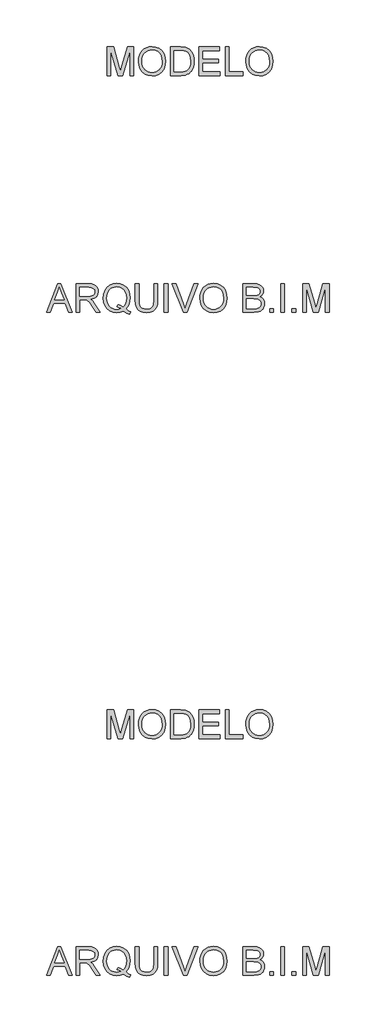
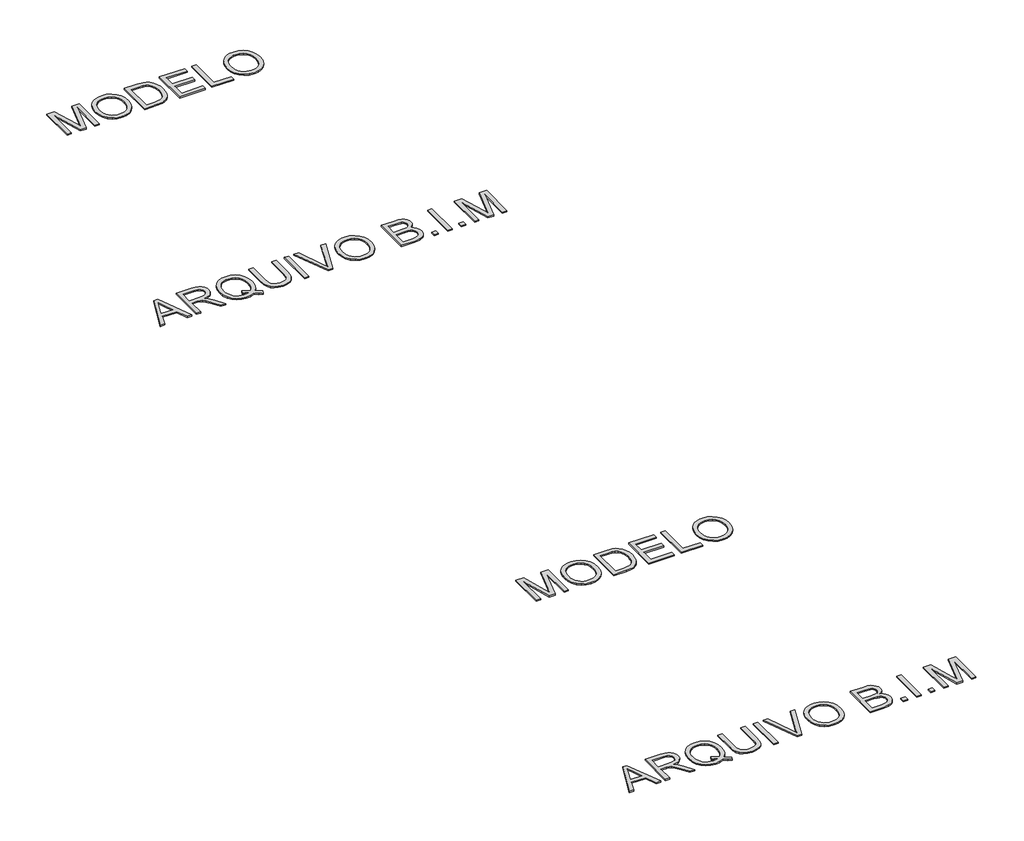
# One storey, part 12 of 19: 4 proxies.
"""IFC4 building model written with IfcOpenShell, lengths in millimetres."""

from ifc_helpers import new_model, si_unit, origin, origin_with_axes, place, context, project, spatial, polyline, outline, extrude, element, save

model = new_model("IFC4")

# Units and contexts
model_context = context("Model", 3, world=origin())
ifc_project = project(units=[si_unit("LENGTHUNIT", "METRE", prefix="MILLI")], contexts=[model_context])

# Site, building, storey
site = spatial("IfcSite", under=ifc_project)
building = spatial("IfcBuilding", under=site)
storey = spatial("IfcBuildingStorey", under=building, Name="Marelli - Linha ACTIVE - Planta Baixa", Elevation=0.0)

# Proxies
placement = place(None, origin())
element("IfcBuildingElementProxy", 1, Name="300mm Arial", ObjectType="300mm Arial", at=placement, inside=storey, context=model_context, shape_type="SweptSolid", body=[
    extrude(outline(polyline([(-5609.419598, -35280.5663201), (-5489.1221856, -34979.1973896), (-5457.0428756, -34979.1973896), (-5336.7454632, -35280.5663201), (-5376.550295, -35280.5663201), (-5411.0576262, -35186.3885293), (-5535.1810114, -35186.3885293), (-5569.6147661, -35280.5663201), (-5609.419598, -35280.5663201)]), holes=[polyline([(-5521.3486483, -35148.717413), (-5424.8164128, -35148.717413), (-5451.9661041, -35074.6259792), (-5473.0825306, -35016.8685059), (-5491.8445123, -35068.1512561), (-5521.3486483, -35148.717413)])]), origin_with_axes(), (0.0, 0.0, 1.0), 10.0),
    extrude(outline(polyline([(-5296.4991729, -35280.5663201), (-5296.4991729, -34979.1973896), (-5166.6368286, -34979.1973896), (-5131.7340243, -34981.2299376), (-5106.3409696, -34987.3275817), (-5087.7813229, -34998.5847708), (-5073.3787428, -35016.0959537), (-5064.1357077, -35037.8101885), (-5061.054696, -35061.6765329), (-5066.1590587, -35091.3646099), (-5081.4721467, -35115.9759154), (-5093.0719259, -35126.0052983), (-5107.4538126, -35134.0205273), (-5144.5639089, -35144.0085235), (-5123.1531768, -35160.1217548), (-5092.6189712, -35198.8965171), (-5042.3662906, -35280.5663201), (-5086.144248, -35280.5663201), (-5125.3604687, -35218.0999573), (-5153.6873824, -35176.750021), (-5173.5897983, -35157.2154871), (-5191.5056515, -35150.0417882), (-5213.357842, -35148.717413), (-5258.8280566, -35148.717413), (-5258.8280566, -35280.5663201), (-5296.4991729, -35280.5663201)]), holes=[polyline([(-5258.8280566, -35111.0462967), (-5174.5095033, -35111.0462967), (-5150.293671, -35109.7127245), (-5131.5040981, -35105.7120078), (-5117.3590353, -35098.7774322), (-5107.0767336, -35088.6422832), (-5100.8135426, -35076.3826157), (-5098.7258123, -35063.0744845), (-5102.7081349, -35044.6987789), (-5114.6551027, -35029.8915286), (-5135.2105092, -35020.1242616), (-5165.0181478, -35016.8685059), (-5258.8280566, -35016.8685059), (-5258.8280566, -35111.0462967)])]), origin_with_axes(), (0.0, 0.0, 1.0), 10.0),
    extrude(outline(polyline([(-4768.7356626, -35244.4403081), (-4744.4002686, -35263.036743), (-4722.0146492, -35275.8574305), (-4732.1681923, -35303.4485802), (-4763.2358268, -35289.0460001), (-4794.1930967, -35268.205485), (-4829.0499157, -35281.0077785), (-4867.4016137, -35285.2752096), (-4905.9372527, -35280.3547879), (-4940.7572836, -35265.5935229), (-4969.9211287, -35241.9203165), (-4991.4882107, -35210.2640708), (-5004.814736, -35172.3630282), (-5009.2569111, -35129.9554312), (-5004.823933, -35087.511046), (-4991.5249989, -35049.0581805), (-4970.0406904, -35016.9512794), (-4941.0515892, -34993.5447874), (-4906.360317, -34979.2525719), (-4867.7694957, -34974.4885001), (-4828.8751718, -34979.3629365), (-4794.0091557, -34993.9862458), (-4765.0660397, -35017.3835407), (-4743.9404161, -35048.5799339), (-4731.0277581, -35085.9199564), (-4726.7235388, -35127.7481393), (-4729.3355009, -35162.5313819), (-4737.1713874, -35193.5990164), (-4750.2863806, -35220.9142546), (-4768.7356626, -35244.4403081)]), holes=[polyline([(-4857.0273415, -35194.3347804), (-4825.3527017, -35206.3093393), (-4799.784903, -35222.9559996), (-4784.3016695, -35205.4816049), (-4773.2422171, -35184.1076609), (-4766.6065456, -35158.8341679), (-4764.3946551, -35129.6611256), (-4767.521652, -35096.5057608), (-4776.9026429, -35067.8201623), (-4792.3077015, -35044.3308969), (-4813.5069014, -35026.7645316), (-4839.065503, -35015.8108452), (-4867.5487665, -35012.1596164), (-4889.033075, -35014.0059242), (-4908.6043972, -35019.5448474), (-4926.2627329, -35028.7763863), (-4942.0080823, -35041.7005406), (-4954.9483315, -35058.2897193), (-4964.1913666, -35078.5163313), (-4969.7371877, -35102.3803764), (-4971.5857948, -35129.8818548), (-4969.7578811, -35156.6659634), (-4964.2741401, -35180.1437324), (-4955.1345718, -35200.3151621), (-4942.3391761, -35217.1802523), (-4926.7018921, -35230.4906827), (-4909.0366585, -35239.9981331), (-4889.3434755, -35245.7026032), (-4867.6223429, -35247.6040933), (-4846.7082515, -35245.6727128), (-4827.081747, -35239.8785714), (-4846.3771577, -35229.853787), (-4866.7394261, -35223.1767288), (-4857.0273415, -35194.3347804)])]), origin_with_axes(), (0.0, 0.0, 1.0), 10.0),
    extrude(outline(polyline([(-4472.4435037, -34979.1973896), (-4434.7723874, -34979.1973896), (-4434.7723874, -35153.0584205), (-4437.3291673, -35193.7737604), (-4444.9995069, -35225.1265034), (-4459.3285106, -35249.3147446), (-4481.8612828, -35268.5365788), (-4512.6530058, -35281.0905519), (-4551.7588619, -35285.2752096), (-4590.0093923, -35281.6331779), (-4620.5895832, -35270.7070826), (-4643.5086315, -35252.8740029), (-4658.7757343, -35228.5110178), (-4667.3565818, -35195.8338995), (-4670.2168643, -35153.0584205), (-4670.2168643, -34979.1973896), (-4632.545748, -34979.1973896), (-4632.545748, -35151.7340454), (-4630.6879439, -35185.588386), (-4625.1145317, -35209.1604248), (-4615.0161709, -35225.4851883), (-4599.5835212, -35237.597703), (-4579.4603761, -35245.1024957), (-4555.290529, -35247.6040933), (-4516.9756192, -35242.6560805), (-4502.6328199, -35236.4710644), (-4491.499791, -35227.812042), (-4483.1626653, -35215.6351479), (-4477.2075755, -35198.8965171), (-4472.4435037, -35151.7340454), (-4472.4435037, -34979.1973896)])), origin_with_axes(), (0.0, 0.0, 1.0), 10.0),
    extrude(outline(polyline([(-4364.1390443, -35280.5663201), (-4364.1390443, -34979.1973896), (-4326.467928, -34979.1973896), (-4326.467928, -35280.5663201), (-4364.1390443, -35280.5663201)])), origin_with_axes(), (0.0, 0.0, 1.0), 10.0),
    extrude(outline(polyline([(-4162.0982526, -35280.5663201), (-4282.027783, -34979.1973896), (-4241.7079163, -34979.1973896), (-4161.436065, -35196.3213432), (-4145.1756808, -35245.2496485), (-4129.1360258, -35196.3213432), (-4048.6434453, -34979.1973896), (-4008.3235786, -34979.1973896), (-4123.1763375, -35280.5663201), (-4162.0982526, -35280.5663201)])), origin_with_axes(), (0.0, 0.0, 1.0), 10.0),
    extrude(outline(polyline([(-3987.4278813, -35133.8549804), (-3984.9170866, -35098.5061192), (-3977.3847028, -35067.213157), (-3964.8307297, -35039.9760937), (-3947.2551674, -35016.7949295), (-3925.711078, -34998.2858666), (-3901.2515239, -34985.0651074), (-3873.8765049, -34977.1326519), (-3843.5860211, -34974.4885001), (-3804.0571008, -34979.454907), (-3768.6116705, -34994.3541278), (-3739.1811109, -35018.1376988), (-3717.6968024, -35049.7571563), (-3704.5634152, -35087.68579), (-3700.1856194, -35130.3968896), (-3704.7933414, -35173.6782064), (-3718.6165074, -35212.140269), (-3740.8917622, -35243.8149087), (-3770.8557507, -35266.733957), (-3805.9976783, -35280.6398965), (-3843.8067503, -35285.2752096), (-3883.942676, -35280.1524528), (-3919.5904413, -35264.7841825), (-3948.9474246, -35240.5591531), (-3970.2110039, -35208.8661192), (-3983.1236619, -35172.3998164), (-3987.4278813, -35133.8549804)]), holes=[polyline([(-3949.7567649, -35134.2228624), (-3947.873669, -35159.1974513), (-3942.2243811, -35181.3669401), (-3932.8089013, -35200.7313286), (-3919.6272295, -35217.2906169), (-3903.6036694, -35230.5527628), (-3885.6625243, -35240.0257242), (-3865.8037944, -35245.709501), (-3844.0274795, -35247.6040933), (-3821.8786842, -35245.6911069), (-3801.7854294, -35239.9521478), (-3783.7477154, -35230.3872159), (-3767.7655419, -35216.9963113), (-3754.6804392, -35200.0875351), (-3745.3339373, -35179.9689885), (-3739.7260361, -35156.6406715), (-3737.8567357, -35130.102584), (-3741.0573091, -35096.7540812), (-3750.6590292, -35067.9305269), (-3766.4135756, -35044.358488), (-3788.0726281, -35026.7645316), (-3814.2014468, -35015.8108452), (-3843.3652919, -35012.1596164), (-3864.3851494, -35013.9185522), (-3883.8874937, -35019.1953595), (-3901.8723248, -35027.9900385), (-3918.3396426, -35040.302589), (-3932.0846336, -35056.7262208), (-3941.9024844, -35077.8541437), (-3947.7931948, -35103.6863575), (-3949.7567649, -35134.2228624)])]), origin_with_axes(), (0.0, 0.0, 1.0), 10.0),
    extrude(outline(polyline([(-3530.665596, -35280.5663201), (-3530.665596, -34979.1973896), (-3415.6656844, -34979.1973896), (-3384.0370298, -34981.4138786), (-3359.3429509, -34988.0633457), (-3340.4154222, -34999.3113377), (-3326.0864185, -35015.3234015), (-3317.0641126, -35034.1589597), (-3314.0566773, -35053.8774346), (-3316.585866, -35072.0232141), (-3324.1734321, -35089.0837416), (-3336.874558, -35104.0105535), (-3354.7444259, -35115.7551862), (-3333.3980732, -35126.9020107), (-3317.6251326, -35143.8613707), (-3307.8854568, -35165.5112261), (-3304.6388982, -35190.7295368), (-3306.8553872, -35211.7447958), (-3313.5048543, -35231.2333445), (-3323.4284711, -35247.8064284), (-3335.4674094, -35260.0752929), (-3350.2102804, -35268.9596431), (-3368.2456952, -35275.3791839), (-3416.5486011, -35280.5663201), (-3530.665596, -35280.5663201)]), holes=[polyline([(-3492.9944797, -35101.6285176), (-3424.2005466, -35101.6285176), (-3384.0278328, -35098.3911561), (-3369.9655435, -35092.8085468), (-3359.8579857, -35084.4484284), (-3353.7603416, -35073.4395597), (-3351.7277936, -35059.9106994), (-3353.6223859, -35046.7773121), (-3359.3061627, -35035.3361821), (-3368.5216067, -35026.4058467), (-3381.0112004, -35020.8048433), (-3429.424471, -35016.8685059), (-3492.9944797, -35016.8685059), (-3492.9944797, -35101.6285176)]), polyline([(-3492.9944797, -35242.8952038), (-3415.7392607, -35242.8952038), (-3387.7802291, -35241.4236758), (-3364.1254168, -35233.2199073), (-3348.4536438, -35216.4812765), (-3343.8459218, -35204.6538704), (-3342.3100145, -35191.0974188), (-3344.1126363, -35175.3520694), (-3349.5205016, -35161.814012), (-3358.9658718, -35151.2282076), (-3372.8810083, -35144.3396173), (-3392.5902862, -35140.5596298), (-3419.4180807, -35139.2996339), (-3492.9944797, -35139.2996339), (-3492.9944797, -35242.8952038)])]), origin_with_axes(), (0.0, 0.0, 1.0), 10.0),
    extrude(outline(polyline([(-3248.1322237, -35280.5663201), (-3248.1322237, -35242.8952038), (-3210.4611074, -35242.8952038), (-3210.4611074, -35280.5663201), (-3248.1322237, -35280.5663201)])), origin_with_axes(), (0.0, 0.0, 1.0), 10.0),
    extrude(outline(polyline([(-3130.4099853, -35280.5663201), (-3130.4099853, -34979.1973896), (-3092.738869, -34979.1973896), (-3092.738869, -35280.5663201), (-3130.4099853, -35280.5663201)])), origin_with_axes(), (0.0, 0.0, 1.0), 10.0),
    extrude(outline(polyline([(-3012.6877468, -35280.5663201), (-3012.6877468, -35242.8952038), (-2975.0166305, -35242.8952038), (-2975.0166305, -35280.5663201), (-3012.6877468, -35280.5663201)])), origin_with_axes(), (0.0, 0.0, 1.0), 10.0),
    extrude(outline(polyline([(-2899.6743979, -35280.5663201), (-2899.6743979, -34979.1973896), (-2834.8535904, -34979.1973896), (-2773.196568, -35191.6124536), (-2760.7621565, -35235.9790223), (-2747.2976755, -35187.9336337), (-2686.6707227, -34979.1973896), (-2621.8499152, -34979.1973896), (-2621.8499152, -35280.5663201), (-2659.5210315, -35280.5663201), (-2659.5210315, -35016.8685059), (-2735.2311461, -35280.5663201), (-2786.293167, -35280.5663201), (-2862.0032816, -35016.8685059), (-2862.0032816, -35280.5663201), (-2899.6743979, -35280.5663201)])), origin_with_axes(), (0.0, 0.0, 1.0), 10.0),
])
element("IfcBuildingElementProxy", 2, Name="300mm Arial", ObjectType="300mm Arial", at=placement, inside=storey, context=model_context, shape_type="SweptSolid", body=[
    extrude(outline(polyline([(-4966.8769052, -32780.5663201), (-4966.8769052, -32479.1973896), (-4902.0560977, -32479.1973896), (-4840.3990753, -32691.6124536), (-4827.9646638, -32735.9790223), (-4814.5001828, -32687.9336337), (-4753.87323, -32479.1973896), (-4689.0524225, -32479.1973896), (-4689.0524225, -32780.5663201), (-4726.7235388, -32780.5663201), (-4726.7235388, -32516.8685059), (-4802.4336534, -32780.5663201), (-4853.4956743, -32780.5663201), (-4929.2057889, -32516.8685059), (-4929.2057889, -32780.5663201), (-4966.8769052, -32780.5663201)])), origin_with_axes(), (0.0, 0.0, 1.0), 10.0),
    extrude(outline(polyline([(-4637.2546375, -32633.8549804), (-4634.7438429, -32598.5061192), (-4627.2114591, -32567.213157), (-4614.657486, -32539.9760937), (-4597.0819237, -32516.7949295), (-4575.5378343, -32498.2858666), (-4551.0782802, -32485.0651074), (-4523.7032612, -32477.1326519), (-4493.4127774, -32474.4885001), (-4453.883857, -32479.454907), (-4418.4384268, -32494.3541278), (-4389.0078672, -32518.1376988), (-4367.5235587, -32549.7571563), (-4354.3901714, -32587.68579), (-4350.0123757, -32630.3968896), (-4354.6200977, -32673.6782064), (-4368.4432637, -32712.140269), (-4390.7185185, -32743.8149087), (-4420.682507, -32766.733957), (-4455.8244346, -32780.6398965), (-4493.6335066, -32785.2752096), (-4533.7694323, -32780.1524528), (-4569.4171976, -32764.7841825), (-4598.7741808, -32740.5591531), (-4620.0377602, -32708.8661192), (-4632.9504182, -32672.3998164), (-4637.2546375, -32633.8549804)]), holes=[polyline([(-4599.5835212, -32634.2228624), (-4597.7004253, -32659.1974513), (-4592.0511374, -32681.3669401), (-4582.6356576, -32700.7313286), (-4569.4539858, -32717.2906169), (-4553.4304257, -32730.5527628), (-4535.4892806, -32740.0257242), (-4515.6305507, -32745.709501), (-4493.8542358, -32747.6040933), (-4471.7054404, -32745.6911069), (-4451.6121857, -32739.9521478), (-4433.5744716, -32730.3872159), (-4417.5922982, -32716.9963113), (-4404.5071955, -32700.0875351), (-4395.1606936, -32679.9689885), (-4389.5527924, -32656.6406715), (-4387.683492, -32630.102584), (-4390.8840654, -32596.7540812), (-4400.4857854, -32567.9305269), (-4416.2403319, -32544.358488), (-4437.8993843, -32526.7645316), (-4464.0282031, -32515.8108452), (-4493.1920482, -32512.1596164), (-4514.2119057, -32513.9185522), (-4533.71425, -32519.1953595), (-4551.699081, -32527.9900385), (-4568.1663988, -32540.302589), (-4581.9113899, -32556.7262208), (-4591.7292406, -32577.8541437), (-4597.6199511, -32603.6863575), (-4599.5835212, -32634.2228624)])]), origin_with_axes(), (0.0, 0.0, 1.0), 10.0),
    extrude(outline(polyline([(-4298.2145908, -32780.5663201), (-4298.2145908, -32479.1973896), (-4194.2511389, -32479.1973896), (-4140.4667912, -32483.5383972), (-4116.444097, -32491.9077126), (-4096.173799, -32505.0962821), (-4075.333284, -32528.0521186), (-4060.4892455, -32556.5997614), (-4051.6048953, -32590.1873876), (-4048.6434453, -32628.2631741), (-4050.6484021, -32660.6091985), (-4056.6632727, -32689.0740679), (-4065.8235344, -32713.3082943), (-4077.2646645, -32732.9623899), (-4090.4348399, -32748.477813), (-4104.7822377, -32760.2960221), (-4121.254154, -32769.0608107), (-4140.797885, -32775.4159721), (-4189.2479438, -32780.5663201), (-4298.2145908, -32780.5663201)]), holes=[polyline([(-4260.5434745, -32742.8952038), (-4193.8832569, -32742.8952038), (-4166.3105014, -32741.5340404), (-4145.39641, -32737.4505502), (-4129.6142724, -32730.8838566), (-4117.4373783, -32722.0730828), (-4104.3499764, -32705.7667134), (-4094.5183301, -32684.6594839), (-4088.3655037, -32658.6594239), (-4086.3145616, -32627.6745629), (-4090.3336724, -32586.6189322), (-4102.3910047, -32556.3054558), (-4120.2056904, -32535.4833349), (-4141.4968608, -32522.9017706), (-4163.1651104, -32518.3768221), (-4194.9133265, -32516.8685059), (-4260.5434745, -32516.8685059), (-4260.5434745, -32742.8952038)])]), origin_with_axes(), (0.0, 0.0, 1.0), 10.0),
    extrude(outline(polyline([(-3996.8456603, -32780.5663201), (-3996.8456603, -32479.1973896), (-3780.2367416, -32479.1973896), (-3780.2367416, -32516.8685059), (-3959.174544, -32516.8685059), (-3959.174544, -32606.3374072), (-3789.6545206, -32606.3374072), (-3789.6545206, -32644.0085235), (-3959.174544, -32644.0085235), (-3959.174544, -32742.8952038), (-3775.527852, -32742.8952038), (-3775.527852, -32780.5663201), (-3996.8456603, -32780.5663201)])), origin_with_axes(), (0.0, 0.0, 1.0), 10.0),
    extrude(outline(polyline([(-3719.0211776, -32780.5663201), (-3719.0211776, -32479.1973896), (-3681.3500613, -32479.1973896), (-3681.3500613, -32742.8952038), (-3530.665596, -32742.8952038), (-3530.665596, -32780.5663201), (-3719.0211776, -32780.5663201)])), origin_with_axes(), (0.0, 0.0, 1.0), 10.0),
    extrude(outline(polyline([(-3502.4122588, -32633.8549804), (-3499.9014642, -32598.5061192), (-3492.3690803, -32567.213157), (-3479.8151073, -32539.9760937), (-3462.2395449, -32516.7949295), (-3440.6954556, -32498.2858666), (-3416.2359014, -32485.0651074), (-3388.8608825, -32477.1326519), (-3358.5703987, -32474.4885001), (-3319.0414783, -32479.454907), (-3283.5960481, -32494.3541278), (-3254.1654885, -32518.1376988), (-3232.6811799, -32549.7571563), (-3219.5477927, -32587.68579), (-3215.169997, -32630.3968896), (-3219.777719, -32673.6782064), (-3233.6008849, -32712.140269), (-3255.8761397, -32743.8149087), (-3285.8401283, -32766.733957), (-3320.9820558, -32780.6398965), (-3358.7911279, -32785.2752096), (-3398.9270536, -32780.1524528), (-3434.5748189, -32764.7841825), (-3463.9318021, -32740.5591531), (-3485.1953814, -32708.8661192), (-3498.1080395, -32672.3998164), (-3502.4122588, -32633.8549804)]), holes=[polyline([(-3464.7411425, -32634.2228624), (-3462.8580465, -32659.1974513), (-3457.2087587, -32681.3669401), (-3447.7932788, -32700.7313286), (-3434.6116071, -32717.2906169), (-3418.5880469, -32730.5527628), (-3400.6469019, -32740.0257242), (-3380.7881719, -32745.709501), (-3359.0118571, -32747.6040933), (-3336.8630617, -32745.6911069), (-3316.769807, -32739.9521478), (-3298.7320929, -32730.3872159), (-3282.7499195, -32716.9963113), (-3269.6648168, -32700.0875351), (-3260.3183148, -32679.9689885), (-3254.7104137, -32656.6406715), (-3252.8411133, -32630.102584), (-3256.0416866, -32596.7540812), (-3265.6434067, -32567.9305269), (-3281.3979532, -32544.358488), (-3303.0570056, -32526.7645316), (-3329.1858243, -32515.8108452), (-3358.3496695, -32512.1596164), (-3379.369527, -32513.9185522), (-3398.8718713, -32519.1953595), (-3416.8567023, -32527.9900385), (-3433.3240201, -32540.302589), (-3447.0690112, -32556.7262208), (-3456.8868619, -32577.8541437), (-3462.7775724, -32603.6863575), (-3464.7411425, -32634.2228624)])]), origin_with_axes(), (0.0, 0.0, 1.0), 10.0),
])
element("IfcBuildingElementProxy", 3, Name="300mm Arial", ObjectType="300mm Arial", at=placement, inside=storey, context=model_context, shape_type="SweptSolid", body=[
    extrude(outline(polyline([(-5609.419598, -28280.5663201), (-5489.1221856, -27979.1973896), (-5457.0428756, -27979.1973896), (-5336.7454632, -28280.5663201), (-5376.550295, -28280.5663201), (-5411.0576262, -28186.3885293), (-5535.1810114, -28186.3885293), (-5569.6147661, -28280.5663201), (-5609.419598, -28280.5663201)]), holes=[polyline([(-5521.3486483, -28148.717413), (-5424.8164128, -28148.717413), (-5451.9661041, -28074.6259792), (-5473.0825306, -28016.8685059), (-5491.8445123, -28068.1512561), (-5521.3486483, -28148.717413)])]), origin_with_axes(), (0.0, 0.0, 1.0), 10.0),
    extrude(outline(polyline([(-5296.4991729, -28280.5663201), (-5296.4991729, -27979.1973896), (-5166.6368286, -27979.1973896), (-5131.7340243, -27981.2299376), (-5106.3409696, -27987.3275817), (-5087.7813229, -27998.5847708), (-5073.3787428, -28016.0959537), (-5064.1357077, -28037.8101885), (-5061.054696, -28061.6765329), (-5066.1590587, -28091.3646099), (-5081.4721467, -28115.9759154), (-5093.0719259, -28126.0052983), (-5107.4538126, -28134.0205273), (-5144.5639089, -28144.0085235), (-5123.1531768, -28160.1217548), (-5092.6189712, -28198.8965171), (-5042.3662906, -28280.5663201), (-5086.144248, -28280.5663201), (-5125.3604687, -28218.0999573), (-5153.6873824, -28176.750021), (-5173.5897983, -28157.2154871), (-5191.5056515, -28150.0417882), (-5213.357842, -28148.717413), (-5258.8280566, -28148.717413), (-5258.8280566, -28280.5663201), (-5296.4991729, -28280.5663201)]), holes=[polyline([(-5258.8280566, -28111.0462967), (-5174.5095033, -28111.0462967), (-5150.293671, -28109.7127245), (-5131.5040981, -28105.7120078), (-5117.3590353, -28098.7774322), (-5107.0767336, -28088.6422832), (-5100.8135426, -28076.3826157), (-5098.7258123, -28063.0744845), (-5102.7081349, -28044.6987789), (-5114.6551027, -28029.8915286), (-5135.2105092, -28020.1242616), (-5165.0181478, -28016.8685059), (-5258.8280566, -28016.8685059), (-5258.8280566, -28111.0462967)])]), origin_with_axes(), (0.0, 0.0, 1.0), 10.0),
    extrude(outline(polyline([(-4768.7356626, -28244.4403081), (-4744.4002686, -28263.036743), (-4722.0146492, -28275.8574305), (-4732.1681923, -28303.4485802), (-4763.2358268, -28289.0460001), (-4794.1930967, -28268.205485), (-4829.0499157, -28281.0077785), (-4867.4016137, -28285.2752096), (-4905.9372527, -28280.3547879), (-4940.7572836, -28265.5935229), (-4969.9211287, -28241.9203165), (-4991.4882107, -28210.2640708), (-5004.814736, -28172.3630282), (-5009.2569111, -28129.9554312), (-5004.823933, -28087.511046), (-4991.5249989, -28049.0581805), (-4970.0406904, -28016.9512794), (-4941.0515892, -27993.5447874), (-4906.360317, -27979.2525719), (-4867.7694957, -27974.4885001), (-4828.8751718, -27979.3629365), (-4794.0091557, -27993.9862458), (-4765.0660397, -28017.3835407), (-4743.9404161, -28048.5799339), (-4731.0277581, -28085.9199564), (-4726.7235388, -28127.7481393), (-4729.3355009, -28162.5313819), (-4737.1713874, -28193.5990164), (-4750.2863806, -28220.9142546), (-4768.7356626, -28244.4403081)]), holes=[polyline([(-4857.0273415, -28194.3347804), (-4825.3527017, -28206.3093393), (-4799.784903, -28222.9559996), (-4784.3016695, -28205.4816049), (-4773.2422171, -28184.1076609), (-4766.6065456, -28158.8341679), (-4764.3946551, -28129.6611256), (-4767.521652, -28096.5057608), (-4776.9026429, -28067.8201623), (-4792.3077015, -28044.3308969), (-4813.5069014, -28026.7645316), (-4839.065503, -28015.8108452), (-4867.5487665, -28012.1596164), (-4889.033075, -28014.0059242), (-4908.6043972, -28019.5448474), (-4926.2627329, -28028.7763863), (-4942.0080823, -28041.7005406), (-4954.9483315, -28058.2897193), (-4964.1913666, -28078.5163313), (-4969.7371877, -28102.3803764), (-4971.5857948, -28129.8818548), (-4969.7578811, -28156.6659634), (-4964.2741401, -28180.1437324), (-4955.1345718, -28200.3151621), (-4942.3391761, -28217.1802523), (-4926.7018921, -28230.4906827), (-4909.0366585, -28239.9981331), (-4889.3434755, -28245.7026032), (-4867.6223429, -28247.6040933), (-4846.7082515, -28245.6727128), (-4827.081747, -28239.8785714), (-4846.3771577, -28229.853787), (-4866.7394261, -28223.1767288), (-4857.0273415, -28194.3347804)])]), origin_with_axes(), (0.0, 0.0, 1.0), 10.0),
    extrude(outline(polyline([(-4472.4435037, -27979.1973896), (-4434.7723874, -27979.1973896), (-4434.7723874, -28153.0584205), (-4437.3291673, -28193.7737604), (-4444.9995069, -28225.1265034), (-4459.3285106, -28249.3147446), (-4481.8612828, -28268.5365788), (-4512.6530058, -28281.0905519), (-4551.7588619, -28285.2752096), (-4590.0093923, -28281.6331779), (-4620.5895832, -28270.7070826), (-4643.5086315, -28252.8740029), (-4658.7757343, -28228.5110178), (-4667.3565818, -28195.8338995), (-4670.2168643, -28153.0584205), (-4670.2168643, -27979.1973896), (-4632.545748, -27979.1973896), (-4632.545748, -28151.7340454), (-4630.6879439, -28185.588386), (-4625.1145317, -28209.1604248), (-4615.0161709, -28225.4851883), (-4599.5835212, -28237.597703), (-4579.4603761, -28245.1024957), (-4555.290529, -28247.6040933), (-4516.9756192, -28242.6560805), (-4502.6328199, -28236.4710644), (-4491.499791, -28227.812042), (-4483.1626653, -28215.6351479), (-4477.2075755, -28198.8965171), (-4472.4435037, -28151.7340454), (-4472.4435037, -27979.1973896)])), origin_with_axes(), (0.0, 0.0, 1.0), 10.0),
    extrude(outline(polyline([(-4364.1390443, -28280.5663201), (-4364.1390443, -27979.1973896), (-4326.467928, -27979.1973896), (-4326.467928, -28280.5663201), (-4364.1390443, -28280.5663201)])), origin_with_axes(), (0.0, 0.0, 1.0), 10.0),
    extrude(outline(polyline([(-4162.0982526, -28280.5663201), (-4282.027783, -27979.1973896), (-4241.7079163, -27979.1973896), (-4161.436065, -28196.3213432), (-4145.1756808, -28245.2496485), (-4129.1360258, -28196.3213432), (-4048.6434453, -27979.1973896), (-4008.3235786, -27979.1973896), (-4123.1763375, -28280.5663201), (-4162.0982526, -28280.5663201)])), origin_with_axes(), (0.0, 0.0, 1.0), 10.0),
    extrude(outline(polyline([(-3987.4278813, -28133.8549804), (-3984.9170866, -28098.5061192), (-3977.3847028, -28067.213157), (-3964.8307297, -28039.9760937), (-3947.2551674, -28016.7949295), (-3925.711078, -27998.2858666), (-3901.2515239, -27985.0651074), (-3873.8765049, -27977.1326519), (-3843.5860211, -27974.4885001), (-3804.0571008, -27979.454907), (-3768.6116705, -27994.3541278), (-3739.1811109, -28018.1376988), (-3717.6968024, -28049.7571563), (-3704.5634152, -28087.68579), (-3700.1856194, -28130.3968896), (-3704.7933414, -28173.6782064), (-3718.6165074, -28212.140269), (-3740.8917622, -28243.8149087), (-3770.8557507, -28266.733957), (-3805.9976783, -28280.6398965), (-3843.8067503, -28285.2752096), (-3883.942676, -28280.1524528), (-3919.5904413, -28264.7841825), (-3948.9474246, -28240.5591531), (-3970.2110039, -28208.8661192), (-3983.1236619, -28172.3998164), (-3987.4278813, -28133.8549804)]), holes=[polyline([(-3949.7567649, -28134.2228624), (-3947.873669, -28159.1974513), (-3942.2243811, -28181.3669401), (-3932.8089013, -28200.7313286), (-3919.6272295, -28217.2906169), (-3903.6036694, -28230.5527628), (-3885.6625243, -28240.0257242), (-3865.8037944, -28245.709501), (-3844.0274795, -28247.6040933), (-3821.8786842, -28245.6911069), (-3801.7854294, -28239.9521478), (-3783.7477154, -28230.3872159), (-3767.7655419, -28216.9963113), (-3754.6804392, -28200.0875351), (-3745.3339373, -28179.9689885), (-3739.7260361, -28156.6406715), (-3737.8567357, -28130.102584), (-3741.0573091, -28096.7540812), (-3750.6590292, -28067.9305269), (-3766.4135756, -28044.358488), (-3788.0726281, -28026.7645316), (-3814.2014468, -28015.8108452), (-3843.3652919, -28012.1596164), (-3864.3851494, -28013.9185522), (-3883.8874937, -28019.1953595), (-3901.8723248, -28027.9900385), (-3918.3396426, -28040.302589), (-3932.0846336, -28056.7262208), (-3941.9024844, -28077.8541437), (-3947.7931948, -28103.6863575), (-3949.7567649, -28134.2228624)])]), origin_with_axes(), (0.0, 0.0, 1.0), 10.0),
    extrude(outline(polyline([(-3530.665596, -28280.5663201), (-3530.665596, -27979.1973896), (-3415.6656844, -27979.1973896), (-3384.0370298, -27981.4138786), (-3359.3429509, -27988.0633457), (-3340.4154222, -27999.3113377), (-3326.0864185, -28015.3234015), (-3317.0641126, -28034.1589597), (-3314.0566773, -28053.8774346), (-3316.585866, -28072.0232141), (-3324.1734321, -28089.0837416), (-3336.874558, -28104.0105535), (-3354.7444259, -28115.7551862), (-3333.3980732, -28126.9020107), (-3317.6251326, -28143.8613707), (-3307.8854568, -28165.5112261), (-3304.6388982, -28190.7295368), (-3306.8553872, -28211.7447958), (-3313.5048543, -28231.2333445), (-3323.4284711, -28247.8064284), (-3335.4674094, -28260.0752929), (-3350.2102804, -28268.9596431), (-3368.2456952, -28275.3791839), (-3416.5486011, -28280.5663201), (-3530.665596, -28280.5663201)]), holes=[polyline([(-3492.9944797, -28101.6285176), (-3424.2005466, -28101.6285176), (-3384.0278328, -28098.3911561), (-3369.9655435, -28092.8085468), (-3359.8579857, -28084.4484284), (-3353.7603416, -28073.4395597), (-3351.7277936, -28059.9106994), (-3353.6223859, -28046.7773121), (-3359.3061627, -28035.3361821), (-3368.5216067, -28026.4058467), (-3381.0112004, -28020.8048433), (-3429.424471, -28016.8685059), (-3492.9944797, -28016.8685059), (-3492.9944797, -28101.6285176)]), polyline([(-3492.9944797, -28242.8952038), (-3415.7392607, -28242.8952038), (-3387.7802291, -28241.4236758), (-3364.1254168, -28233.2199073), (-3348.4536438, -28216.4812765), (-3343.8459218, -28204.6538704), (-3342.3100145, -28191.0974188), (-3344.1126363, -28175.3520694), (-3349.5205016, -28161.814012), (-3358.9658718, -28151.2282076), (-3372.8810083, -28144.3396173), (-3392.5902862, -28140.5596298), (-3419.4180807, -28139.2996339), (-3492.9944797, -28139.2996339), (-3492.9944797, -28242.8952038)])]), origin_with_axes(), (0.0, 0.0, 1.0), 10.0),
    extrude(outline(polyline([(-3248.1322237, -28280.5663201), (-3248.1322237, -28242.8952038), (-3210.4611074, -28242.8952038), (-3210.4611074, -28280.5663201), (-3248.1322237, -28280.5663201)])), origin_with_axes(), (0.0, 0.0, 1.0), 10.0),
    extrude(outline(polyline([(-3130.4099853, -28280.5663201), (-3130.4099853, -27979.1973896), (-3092.738869, -27979.1973896), (-3092.738869, -28280.5663201), (-3130.4099853, -28280.5663201)])), origin_with_axes(), (0.0, 0.0, 1.0), 10.0),
    extrude(outline(polyline([(-3012.6877468, -28280.5663201), (-3012.6877468, -28242.8952038), (-2975.0166305, -28242.8952038), (-2975.0166305, -28280.5663201), (-3012.6877468, -28280.5663201)])), origin_with_axes(), (0.0, 0.0, 1.0), 10.0),
    extrude(outline(polyline([(-2899.6743979, -28280.5663201), (-2899.6743979, -27979.1973896), (-2834.8535904, -27979.1973896), (-2773.196568, -28191.6124536), (-2760.7621565, -28235.9790223), (-2747.2976755, -28187.9336337), (-2686.6707227, -27979.1973896), (-2621.8499152, -27979.1973896), (-2621.8499152, -28280.5663201), (-2659.5210315, -28280.5663201), (-2659.5210315, -28016.8685059), (-2735.2311461, -28280.5663201), (-2786.293167, -28280.5663201), (-2862.0032816, -28016.8685059), (-2862.0032816, -28280.5663201), (-2899.6743979, -28280.5663201)])), origin_with_axes(), (0.0, 0.0, 1.0), 10.0),
])
element("IfcBuildingElementProxy", 4, Name="300mm Arial", ObjectType="300mm Arial", at=placement, inside=storey, context=model_context, shape_type="SweptSolid", body=[
    extrude(outline(polyline([(-4966.8769052, -25780.5663201), (-4966.8769052, -25479.1973896), (-4902.0560977, -25479.1973896), (-4840.3990753, -25691.6124536), (-4827.9646638, -25735.9790223), (-4814.5001828, -25687.9336337), (-4753.87323, -25479.1973896), (-4689.0524225, -25479.1973896), (-4689.0524225, -25780.5663201), (-4726.7235388, -25780.5663201), (-4726.7235388, -25516.8685059), (-4802.4336534, -25780.5663201), (-4853.4956743, -25780.5663201), (-4929.2057889, -25516.8685059), (-4929.2057889, -25780.5663201), (-4966.8769052, -25780.5663201)])), origin_with_axes(), (0.0, 0.0, 1.0), 10.0),
    extrude(outline(polyline([(-4637.2546375, -25633.8549804), (-4634.7438429, -25598.5061192), (-4627.2114591, -25567.213157), (-4614.657486, -25539.9760937), (-4597.0819237, -25516.7949295), (-4575.5378343, -25498.2858666), (-4551.0782802, -25485.0651074), (-4523.7032612, -25477.1326519), (-4493.4127774, -25474.4885001), (-4453.883857, -25479.454907), (-4418.4384268, -25494.3541278), (-4389.0078672, -25518.1376988), (-4367.5235587, -25549.7571563), (-4354.3901714, -25587.68579), (-4350.0123757, -25630.3968896), (-4354.6200977, -25673.6782064), (-4368.4432637, -25712.140269), (-4390.7185185, -25743.8149087), (-4420.682507, -25766.733957), (-4455.8244346, -25780.6398965), (-4493.6335066, -25785.2752096), (-4533.7694323, -25780.1524528), (-4569.4171976, -25764.7841825), (-4598.7741808, -25740.5591531), (-4620.0377602, -25708.8661192), (-4632.9504182, -25672.3998164), (-4637.2546375, -25633.8549804)]), holes=[polyline([(-4599.5835212, -25634.2228624), (-4597.7004253, -25659.1974513), (-4592.0511374, -25681.3669401), (-4582.6356576, -25700.7313286), (-4569.4539858, -25717.2906169), (-4553.4304257, -25730.5527628), (-4535.4892806, -25740.0257242), (-4515.6305507, -25745.709501), (-4493.8542358, -25747.6040933), (-4471.7054404, -25745.6911069), (-4451.6121857, -25739.9521478), (-4433.5744716, -25730.3872159), (-4417.5922982, -25716.9963113), (-4404.5071955, -25700.0875351), (-4395.1606936, -25679.9689885), (-4389.5527924, -25656.6406715), (-4387.683492, -25630.102584), (-4390.8840654, -25596.7540812), (-4400.4857854, -25567.9305269), (-4416.2403319, -25544.358488), (-4437.8993843, -25526.7645316), (-4464.0282031, -25515.8108452), (-4493.1920482, -25512.1596164), (-4514.2119057, -25513.9185522), (-4533.71425, -25519.1953595), (-4551.699081, -25527.9900385), (-4568.1663988, -25540.302589), (-4581.9113899, -25556.7262208), (-4591.7292406, -25577.8541437), (-4597.6199511, -25603.6863575), (-4599.5835212, -25634.2228624)])]), origin_with_axes(), (0.0, 0.0, 1.0), 10.0),
    extrude(outline(polyline([(-4298.2145908, -25780.5663201), (-4298.2145908, -25479.1973896), (-4194.2511389, -25479.1973896), (-4140.4667912, -25483.5383972), (-4116.444097, -25491.9077126), (-4096.173799, -25505.0962821), (-4075.333284, -25528.0521186), (-4060.4892455, -25556.5997614), (-4051.6048953, -25590.1873876), (-4048.6434453, -25628.2631741), (-4050.6484021, -25660.6091985), (-4056.6632727, -25689.0740679), (-4065.8235344, -25713.3082943), (-4077.2646645, -25732.9623899), (-4090.4348399, -25748.477813), (-4104.7822377, -25760.2960221), (-4121.254154, -25769.0608107), (-4140.797885, -25775.4159721), (-4189.2479438, -25780.5663201), (-4298.2145908, -25780.5663201)]), holes=[polyline([(-4260.5434745, -25742.8952038), (-4193.8832569, -25742.8952038), (-4166.3105014, -25741.5340404), (-4145.39641, -25737.4505502), (-4129.6142724, -25730.8838566), (-4117.4373783, -25722.0730828), (-4104.3499764, -25705.7667134), (-4094.5183301, -25684.6594839), (-4088.3655037, -25658.6594239), (-4086.3145616, -25627.6745629), (-4090.3336724, -25586.6189322), (-4102.3910047, -25556.3054558), (-4120.2056904, -25535.4833349), (-4141.4968608, -25522.9017706), (-4163.1651104, -25518.3768221), (-4194.9133265, -25516.8685059), (-4260.5434745, -25516.8685059), (-4260.5434745, -25742.8952038)])]), origin_with_axes(), (0.0, 0.0, 1.0), 10.0),
    extrude(outline(polyline([(-3996.8456603, -25780.5663201), (-3996.8456603, -25479.1973896), (-3780.2367416, -25479.1973896), (-3780.2367416, -25516.8685059), (-3959.174544, -25516.8685059), (-3959.174544, -25606.3374072), (-3789.6545206, -25606.3374072), (-3789.6545206, -25644.0085235), (-3959.174544, -25644.0085235), (-3959.174544, -25742.8952038), (-3775.527852, -25742.8952038), (-3775.527852, -25780.5663201), (-3996.8456603, -25780.5663201)])), origin_with_axes(), (0.0, 0.0, 1.0), 10.0),
    extrude(outline(polyline([(-3719.0211776, -25780.5663201), (-3719.0211776, -25479.1973896), (-3681.3500613, -25479.1973896), (-3681.3500613, -25742.8952038), (-3530.665596, -25742.8952038), (-3530.665596, -25780.5663201), (-3719.0211776, -25780.5663201)])), origin_with_axes(), (0.0, 0.0, 1.0), 10.0),
    extrude(outline(polyline([(-3502.4122588, -25633.8549804), (-3499.9014642, -25598.5061192), (-3492.3690803, -25567.213157), (-3479.8151073, -25539.9760937), (-3462.2395449, -25516.7949295), (-3440.6954556, -25498.2858666), (-3416.2359014, -25485.0651074), (-3388.8608825, -25477.1326519), (-3358.5703987, -25474.4885001), (-3319.0414783, -25479.454907), (-3283.5960481, -25494.3541278), (-3254.1654885, -25518.1376988), (-3232.6811799, -25549.7571563), (-3219.5477927, -25587.68579), (-3215.169997, -25630.3968896), (-3219.777719, -25673.6782064), (-3233.6008849, -25712.140269), (-3255.8761397, -25743.8149087), (-3285.8401283, -25766.733957), (-3320.9820558, -25780.6398965), (-3358.7911279, -25785.2752096), (-3398.9270536, -25780.1524528), (-3434.5748189, -25764.7841825), (-3463.9318021, -25740.5591531), (-3485.1953814, -25708.8661192), (-3498.1080395, -25672.3998164), (-3502.4122588, -25633.8549804)]), holes=[polyline([(-3464.7411425, -25634.2228624), (-3462.8580465, -25659.1974513), (-3457.2087587, -25681.3669401), (-3447.7932788, -25700.7313286), (-3434.6116071, -25717.2906169), (-3418.5880469, -25730.5527628), (-3400.6469019, -25740.0257242), (-3380.7881719, -25745.709501), (-3359.0118571, -25747.6040933), (-3336.8630617, -25745.6911069), (-3316.769807, -25739.9521478), (-3298.7320929, -25730.3872159), (-3282.7499195, -25716.9963113), (-3269.6648168, -25700.0875351), (-3260.3183148, -25679.9689885), (-3254.7104137, -25656.6406715), (-3252.8411133, -25630.102584), (-3256.0416866, -25596.7540812), (-3265.6434067, -25567.9305269), (-3281.3979532, -25544.358488), (-3303.0570056, -25526.7645316), (-3329.1858243, -25515.8108452), (-3358.3496695, -25512.1596164), (-3379.369527, -25513.9185522), (-3398.8718713, -25519.1953595), (-3416.8567023, -25527.9900385), (-3433.3240201, -25540.302589), (-3447.0690112, -25556.7262208), (-3456.8868619, -25577.8541437), (-3462.7775724, -25603.6863575), (-3464.7411425, -25634.2228624)])]), origin_with_axes(), (0.0, 0.0, 1.0), 10.0),
])

save(model, "model.ifc")
